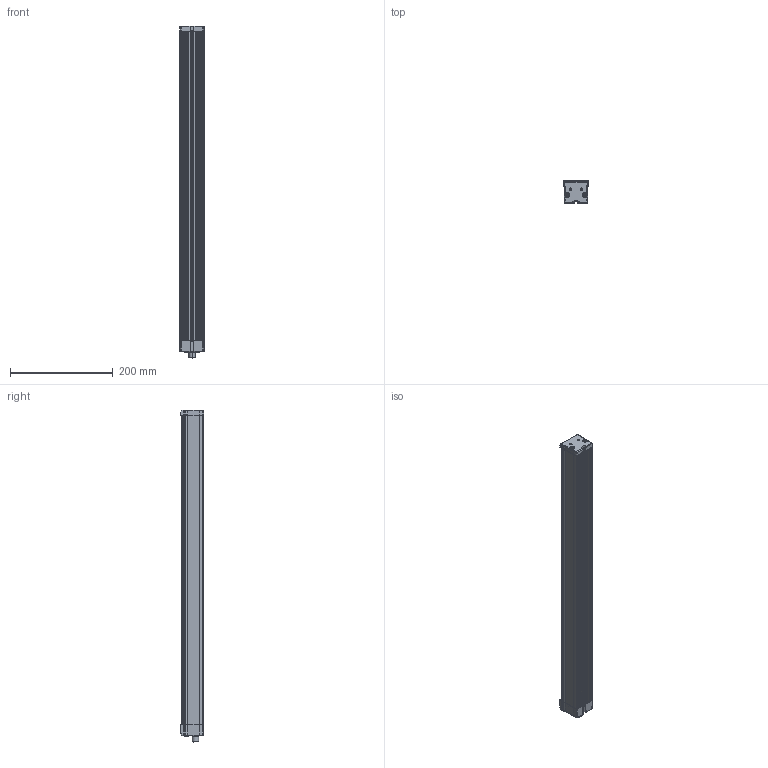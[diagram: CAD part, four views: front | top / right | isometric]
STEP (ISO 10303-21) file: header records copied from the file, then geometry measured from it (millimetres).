
FILE_DESCRIPTION (( 'STEP AP214' ), '1' );
FILE_NAME ('EBAR-C-600.STEP', '2017-11-07T12:37:41', ( '' ), ( '' ), 'SwSTEP 2.0', 'SolidWorks 2014', '' );
FILE_SCHEMA (( 'AUTOMOTIVE_DESIGN' ));
Length unit declared in the file: millimetre
Products named in the file (162): Pin_2_8; R15; Body_1_6; C13; Open CASCADE STEP translator 6.8 1.68.1; A14054001; R4; L3; Pin_1; Pin_1_9; C11; C6; R18; J2; R3; L4; Body_1_2; Body_1_11; L10; C5; R19; Open CASCADE STEP translator 6.8 1.67.1; EBAR-C-600; Open CASCADE STEP translator 6.8 1.14.1; R23; P2; R27; Open CASCADE STEP translator 6.8 1.59.1; Open CASCADE STEP translator 6.8 1.8.1; R21; Pin_2_6; R20; Open CASCADE STEP translator 6.8 1.3.1; D8; Pin_2_13; Pin_2_3; R24; _SSW-103-22-F-D-VS_pin; Pin_1_7; R17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
Assembly tree (213 placements, depth 7):
  EBAR-C-600
    A14054001
    A14054002
    A14054005
    A14054517
    011843_ASM
      A14054006
      VE80510  x2
    A14054060_ASM
      A14054040_ASM
        1437892_EMBASE_MALE
        A14054027 after modification
      A14054516
      A14054517
      Button Cover for Curve Function
      039875_A Curve_connection_circuit
        Layer_1
        P1
          Open CASCADE STEP translator 6.8 1.2.1
            Body_1
        P2
          Open CASCADE STEP translator 6.8 1.3.1
            Body_1
        U2
          Open CASCADE STEP translator 6.8 1.4.1
            Body_1_2
            Pin_1
        C1
          Open CASCADE STEP translator 6.8 1.5.1
            Body_1_3
            Pin_1_2
            Pin_2
        C3
          Open CASCADE STEP translator 6.8 1.5.1
            Body_1_3
            Pin_1_2
            Pin_2
        C4
          Open CASCADE STEP translator 6.8 1.7.1
            Body_1_4
            Pin_1_3
            Pin_2_2
        C5
          Open CASCADE STEP translator 6.8 1.8.1
            Body_1_5
            Pin_1_4
            Pin_2_3
        C6
          Open CASCADE STEP translator 6.8 1.5.1
            Body_1_3
            Pin_1_2
            Pin_2
        L1
          Open CASCADE STEP translator 6.8 1.10.1
            Body_1_6
            Pin_1_5
            Pin_2_4
        L2
          Open CASCADE STEP translator 6.8 1.11.1
            Body_1_7
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Bounding box: 47.63 x 45 x 645.05 mm (x, y, z)
Volume: 485612 mm3; surface area: 450137.6 mm2
Topology: 211 solids, 215 shells, 8827 faces, 22387 edges, 13976 vertices
Faces by surface type: plane 3764, cylinder 2377, bspline 2296, cone 326, torus 64
Entity records: 276167 total; most frequent: CARTESIAN_POINT 118635, ORIENTED_EDGE 29980, DIRECTION 23289, EDGE_CURVE 14990, VERTEX_POINT 9330, AXIS2_PLACEMENT_3D 8186, LINE 6917, VECTOR 6917
